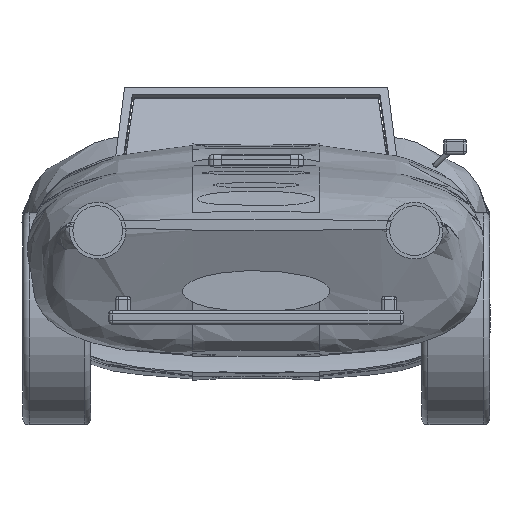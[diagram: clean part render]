
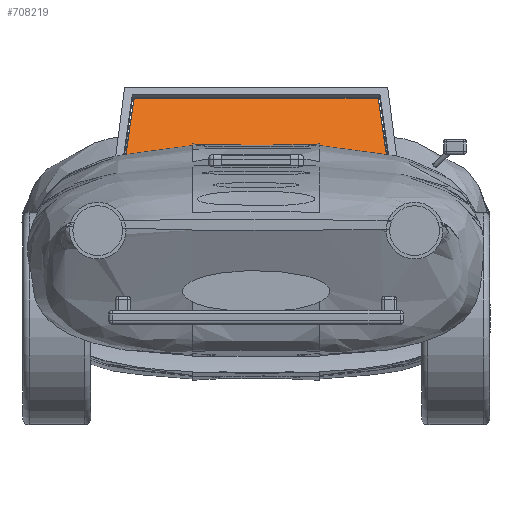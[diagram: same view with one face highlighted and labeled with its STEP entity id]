
A CAD part, left-side view. The second image highlights one B-rep face of the part: STEP entity #708219.
In plain terms, the highlighted planar face has unit normal (-0.866, 0, 0.5).
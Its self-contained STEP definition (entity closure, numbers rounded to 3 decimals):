
#707910 = VERTEX_POINT('',#707911);
#707911 = CARTESIAN_POINT('',(1755.936,-476.,766.445)
  );
#707920 = PLANE('',#707921);
#707921 = AXIS2_PLACEMENT_3D('',#707922,#707923,#707924);
#707922 = CARTESIAN_POINT('',(1755.936,-476.,766.445)
  );
#707923 = DIRECTION('',(0.5,0.,0.866));
#707924 = DIRECTION('',(-0.,1.,0.));
#707932 = PLANE('',#707933);
#707933 = AXIS2_PLACEMENT_3D('',#707934,#707935,#707936);
#707934 = CARTESIAN_POINT('',(1966.936,-422.,
    1131.908));
#707935 = DIRECTION('',(-0.063,0.992,
    -0.11));
#707936 = DIRECTION('',(-0.496,-0.127,-0.859)
  );
#707973 = VERTEX_POINT('',#707974);
#707974 = CARTESIAN_POINT('',(1755.936,476.,766.445));
#707988 = PLANE('',#707989);
#707989 = AXIS2_PLACEMENT_3D('',#707990,#707991,#707992);
#707990 = CARTESIAN_POINT('',(1755.936,476.,766.445));
#707991 = DIRECTION('',(-0.063,-0.992,
    -0.11));
#707992 = DIRECTION('',(0.496,-0.127,0.859));
#708000 = EDGE_CURVE('',#707910,#707973,#708001,.T.);
#708001 = SURFACE_CURVE('',#708002,(#708006,#708013),.PCURVE_S1.);
#708002 = LINE('',#708003,#708004);
#708003 = CARTESIAN_POINT('',(1755.936,-476.,766.445)
  );
#708004 = VECTOR('',#708005,1.);
#708005 = DIRECTION('',(0.,1.,0.));
#708006 = PCURVE('',#707920,#708007);
#708007 = DEFINITIONAL_REPRESENTATION('',(#708008),#708012);
#708008 = LINE('',#708009,#708010);
#708009 = CARTESIAN_POINT('',(0.,0.));
#708010 = VECTOR('',#708011,1.);
#708011 = DIRECTION('',(1.,0.));
#708012 = ( GEOMETRIC_REPRESENTATION_CONTEXT(2) 
PARAMETRIC_REPRESENTATION_CONTEXT() REPRESENTATION_CONTEXT('2D SPACE',''
  ) );
#708013 = PCURVE('',#708014,#708019);
#708014 = PLANE('',#708015);
#708015 = AXIS2_PLACEMENT_3D('',#708016,#708017,#708018);
#708016 = CARTESIAN_POINT('',(1857.131,0.,
    941.72));
#708017 = DIRECTION('',(0.866,0.,-0.5));
#708018 = DIRECTION('',(0.5,0.,0.866));
#708019 = DEFINITIONAL_REPRESENTATION('',(#708020),#708024);
#708020 = LINE('',#708021,#708022);
#708021 = CARTESIAN_POINT('',(-202.391,476.));
#708022 = VECTOR('',#708023,1.);
#708023 = DIRECTION('',(0.,-1.));
#708024 = ( GEOMETRIC_REPRESENTATION_CONTEXT(2) 
PARAMETRIC_REPRESENTATION_CONTEXT() REPRESENTATION_CONTEXT('2D SPACE',''
  ) );
#708054 = VERTEX_POINT('',#708055);
#708055 = CARTESIAN_POINT('',(1966.936,422.,1131.908
    ));
#708069 = PLANE('',#708070);
#708070 = AXIS2_PLACEMENT_3D('',#708071,#708072,#708073);
#708071 = CARTESIAN_POINT('',(1966.936,422.,1131.908
    ));
#708072 = DIRECTION('',(-0.5,0.,-0.866));
#708073 = DIRECTION('',(0.,-1.,-0.));
#708081 = EDGE_CURVE('',#707973,#708054,#708082,.T.);
#708082 = SURFACE_CURVE('',#708083,(#708087,#708094),.PCURVE_S1.);
#708083 = LINE('',#708084,#708085);
#708084 = CARTESIAN_POINT('',(1755.936,476.,766.445));
#708085 = VECTOR('',#708086,1.);
#708086 = DIRECTION('',(0.496,-0.127,0.859));
#708087 = PCURVE('',#707988,#708088);
#708088 = DEFINITIONAL_REPRESENTATION('',(#708089),#708093);
#708089 = LINE('',#708090,#708091);
#708090 = CARTESIAN_POINT('',(0.,0.));
#708091 = VECTOR('',#708092,1.);
#708092 = DIRECTION('',(1.,0.));
#708093 = ( GEOMETRIC_REPRESENTATION_CONTEXT(2) 
PARAMETRIC_REPRESENTATION_CONTEXT() REPRESENTATION_CONTEXT('2D SPACE',''
  ) );
#708094 = PCURVE('',#708014,#708095);
#708095 = DEFINITIONAL_REPRESENTATION('',(#708096),#708100);
#708096 = LINE('',#708097,#708098);
#708097 = CARTESIAN_POINT('',(-202.391,-476.));
#708098 = VECTOR('',#708099,1.);
#708099 = DIRECTION('',(0.992,0.127));
#708100 = ( GEOMETRIC_REPRESENTATION_CONTEXT(2) 
PARAMETRIC_REPRESENTATION_CONTEXT() REPRESENTATION_CONTEXT('2D SPACE',''
  ) );
#708130 = VERTEX_POINT('',#708131);
#708131 = CARTESIAN_POINT('',(1966.936,-422.,
    1131.908));
#708152 = EDGE_CURVE('',#708054,#708130,#708153,.T.);
#708153 = SURFACE_CURVE('',#708154,(#708158,#708165),.PCURVE_S1.);
#708154 = LINE('',#708155,#708156);
#708155 = CARTESIAN_POINT('',(1966.936,422.,1131.908
    ));
#708156 = VECTOR('',#708157,1.);
#708157 = DIRECTION('',(0.,-1.,0.));
#708158 = PCURVE('',#708069,#708159);
#708159 = DEFINITIONAL_REPRESENTATION('',(#708160),#708164);
#708160 = LINE('',#708161,#708162);
#708161 = CARTESIAN_POINT('',(0.,0.));
#708162 = VECTOR('',#708163,1.);
#708163 = DIRECTION('',(1.,0.));
#708164 = ( GEOMETRIC_REPRESENTATION_CONTEXT(2) 
PARAMETRIC_REPRESENTATION_CONTEXT() REPRESENTATION_CONTEXT('2D SPACE',''
  ) );
#708165 = PCURVE('',#708014,#708166);
#708166 = DEFINITIONAL_REPRESENTATION('',(#708167),#708171);
#708167 = LINE('',#708168,#708169);
#708168 = CARTESIAN_POINT('',(219.609,-422.));
#708169 = VECTOR('',#708170,1.);
#708170 = DIRECTION('',(0.,1.));
#708171 = ( GEOMETRIC_REPRESENTATION_CONTEXT(2) 
PARAMETRIC_REPRESENTATION_CONTEXT() REPRESENTATION_CONTEXT('2D SPACE',''
  ) );
#708199 = EDGE_CURVE('',#708130,#707910,#708200,.T.);
#708200 = SURFACE_CURVE('',#708201,(#708205,#708212),.PCURVE_S1.);
#708201 = LINE('',#708202,#708203);
#708202 = CARTESIAN_POINT('',(1966.936,-422.,
    1131.908));
#708203 = VECTOR('',#708204,1.);
#708204 = DIRECTION('',(-0.496,-0.127,-0.859)
  );
#708205 = PCURVE('',#707932,#708206);
#708206 = DEFINITIONAL_REPRESENTATION('',(#708207),#708211);
#708207 = LINE('',#708208,#708209);
#708208 = CARTESIAN_POINT('',(-0.,0.));
#708209 = VECTOR('',#708210,1.);
#708210 = DIRECTION('',(1.,0.));
#708211 = ( GEOMETRIC_REPRESENTATION_CONTEXT(2) 
PARAMETRIC_REPRESENTATION_CONTEXT() REPRESENTATION_CONTEXT('2D SPACE',''
  ) );
#708212 = PCURVE('',#708014,#708213);
#708213 = DEFINITIONAL_REPRESENTATION('',(#708214),#708218);
#708214 = LINE('',#708215,#708216);
#708215 = CARTESIAN_POINT('',(219.609,422.));
#708216 = VECTOR('',#708217,1.);
#708217 = DIRECTION('',(-0.992,0.127));
#708218 = ( GEOMETRIC_REPRESENTATION_CONTEXT(2) 
PARAMETRIC_REPRESENTATION_CONTEXT() REPRESENTATION_CONTEXT('2D SPACE',''
  ) );
#708219 = ADVANCED_FACE('',(#708220),#708014,.F.);
#708220 = FACE_BOUND('',#708221,.F.);
#708221 = EDGE_LOOP('',(#708222,#708223,#708224,#708225));
#708222 = ORIENTED_EDGE('',*,*,#708000,.T.);
#708223 = ORIENTED_EDGE('',*,*,#708081,.T.);
#708224 = ORIENTED_EDGE('',*,*,#708152,.T.);
#708225 = ORIENTED_EDGE('',*,*,#708199,.T.);
